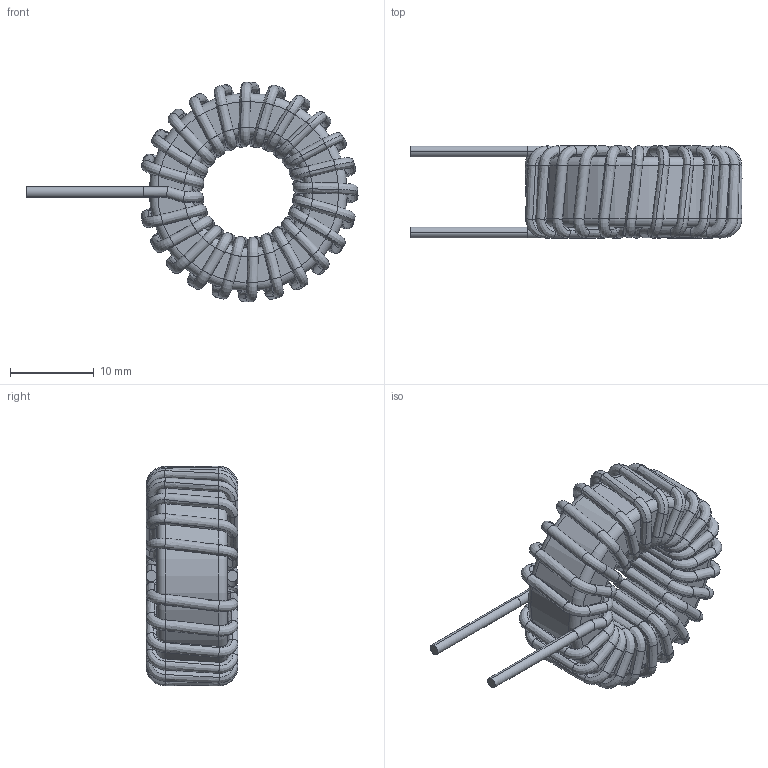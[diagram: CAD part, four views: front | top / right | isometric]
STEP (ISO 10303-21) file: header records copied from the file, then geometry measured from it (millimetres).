
FILE_DESCRIPTION (( 'STEP AP214' ), '1' );
FILE_NAME ('HF229-250M-9.8AV REV.B.STEP', '2018-10-26T07:42:40', ( '' ), ( '' ), 'SwSTEP 2.0', 'SolidWorks 2015', '' );
FILE_SCHEMA (( 'AUTOMOTIVE_DESIGN' ));
Length unit declared in the file: millimetre
Products named in the file (1): HF229-250M-9.8AV REV.B
Bounding box: 39.6 x 10.97 x 26.21 mm (x, y, z)
Volume: 3391.6 mm3; surface area: 4422.8 mm2
Topology: 4 solids, 4 shells, 406 faces, 808 edges, 410 vertices
Faces by surface type: bspline 378, cylinder 12, plane 8, torus 8
Entity records: 38717 total; most frequent: CARTESIAN_POINT 27949, ORIENTED_EDGE 1616, DIRECTION 890, EDGE_CURVE 808, AXIS2_PLACEMENT_3D 439, UNCERTAINTY_MEASURE_WITH_UNIT 412, SURFACE_STYLE_FILL_AREA 411, COLOUR_RGB 411
